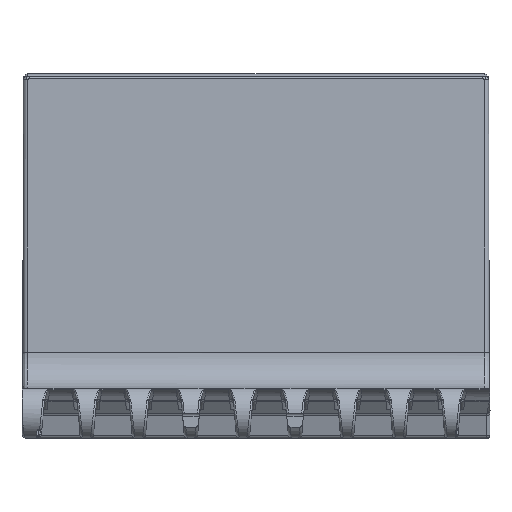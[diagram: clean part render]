
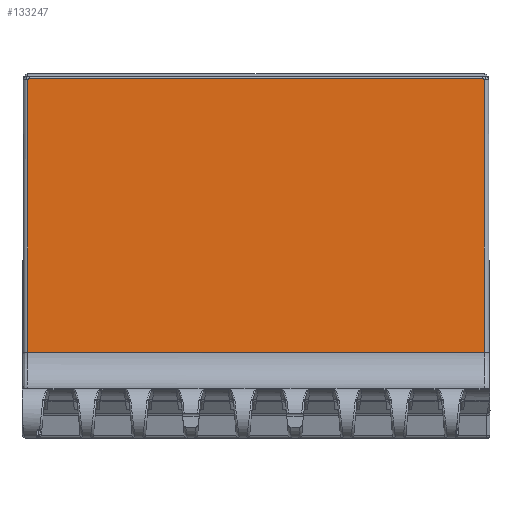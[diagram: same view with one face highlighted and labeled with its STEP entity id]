
A CAD part, top view. The second image highlights one B-rep face of the part: STEP entity #133247.
In plain terms, the highlighted planar face has unit normal (0, 0.021, 1).
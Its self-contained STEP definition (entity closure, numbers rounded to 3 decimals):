
#44825=CARTESIAN_POINT('',(-136.73,19.749,
5.));
#44854=DIRECTION('',(1.,0.,0.));
#44855=VECTOR('',#44854,147.459);
#44856=CARTESIAN_POINT('',(-136.73,19.749,
5.));
#44857=LINE('',#44856,#44855);
#44885=CARTESIAN_POINT('',(10.73,19.749,5.));
#45111=DIRECTION('',(-0.002,-1.,0.021));
#45112=VECTOR('',#45111,87.891);
#45113=CARTESIAN_POINT('',(-136.576,107.62,
3.159));
#45114=LINE('',#45113,#45112);
#45115=CARTESIAN_POINT('',(-136.576,107.62,
3.159));
#45116=CARTESIAN_POINT('',(-136.534,107.801,
3.155));
#45117=CARTESIAN_POINT('',(-136.339,107.98,
3.152));
#45118=CARTESIAN_POINT('',(-136.153,107.98,
3.152));
#45120=DIRECTION('',(-1.,0.,0.));
#45121=VECTOR('',#45120,146.305);
#45122=CARTESIAN_POINT('',(10.153,107.98,3.152));
#45123=LINE('',#45122,#45121);
#45124=CARTESIAN_POINT('',(10.576,107.62,3.159));
#45125=CARTESIAN_POINT('',(10.534,107.801,3.155));
#45126=CARTESIAN_POINT('',(10.339,107.98,3.152));
#45127=CARTESIAN_POINT('',(10.153,107.98,3.152));
#45129=DIRECTION('',(-0.002,1.,-0.021));
#45130=VECTOR('',#45129,87.891);
#45131=CARTESIAN_POINT('',(10.73,19.749,5.));
#45132=LINE('',#45131,#45130);
#47026=VERTEX_POINT('',#44825);
#47030=CARTESIAN_POINT('',(-136.576,107.62,
3.159));
#47031=VERTEX_POINT('',#47030);
#47035=VERTEX_POINT('',#44885);
#47036=CARTESIAN_POINT('',(10.576,107.62,3.159));
#47037=VERTEX_POINT('',#47036);
#47061=CARTESIAN_POINT('',(10.153,107.98,3.152));
#47062=CARTESIAN_POINT('',(-136.153,107.98,
3.152));
#47063=VERTEX_POINT('',#47061);
#47064=VERTEX_POINT('',#47062);
#133231=CARTESIAN_POINT('',(12.25,108.298,3.145));
#133232=DIRECTION('',(0.,0.021,1.));
#133233=DIRECTION('',(0.,-1.,0.021));
#133234=AXIS2_PLACEMENT_3D('',#133231,#133232,#133233);
#133235=PLANE('',#133234);
#133236=ORIENTED_EDGE('',*,*,#132873,.F.);
#133238=ORIENTED_EDGE('',*,*,#133237,.T.);
#133240=ORIENTED_EDGE('',*,*,#133239,.F.);
#133242=ORIENTED_EDGE('',*,*,#133241,.F.);
#133243=ORIENTED_EDGE('',*,*,#133223,.F.);
#133244=ORIENTED_EDGE('',*,*,#132729,.F.);
#133245=EDGE_LOOP('',(#133236,#133238,#133240,#133242,#133243,#133244));
#133246=FACE_OUTER_BOUND('',#133245,.F.);
#133247=ADVANCED_FACE('',(#133246),#133235,.T.);
#45119=B_SPLINE_CURVE_WITH_KNOTS('',3,(#45115,#45116,#45117,#45118),
.UNSPECIFIED.,.F.,.F.,(4,4),(0.,1.),.UNSPECIFIED.);
#45128=B_SPLINE_CURVE_WITH_KNOTS('',3,(#45124,#45125,#45126,#45127),
.UNSPECIFIED.,.F.,.F.,(4,4),(0.,1.),.UNSPECIFIED.);
#132729=EDGE_CURVE('',#47026,#47035,#44857,.T.);
#132873=EDGE_CURVE('',#47031,#47026,#45114,.T.);
#133223=EDGE_CURVE('',#47035,#47037,#45132,.T.);
#133237=EDGE_CURVE('',#47031,#47064,#45119,.T.);
#133239=EDGE_CURVE('',#47063,#47064,#45123,.T.);
#133241=EDGE_CURVE('',#47037,#47063,#45128,.T.);
